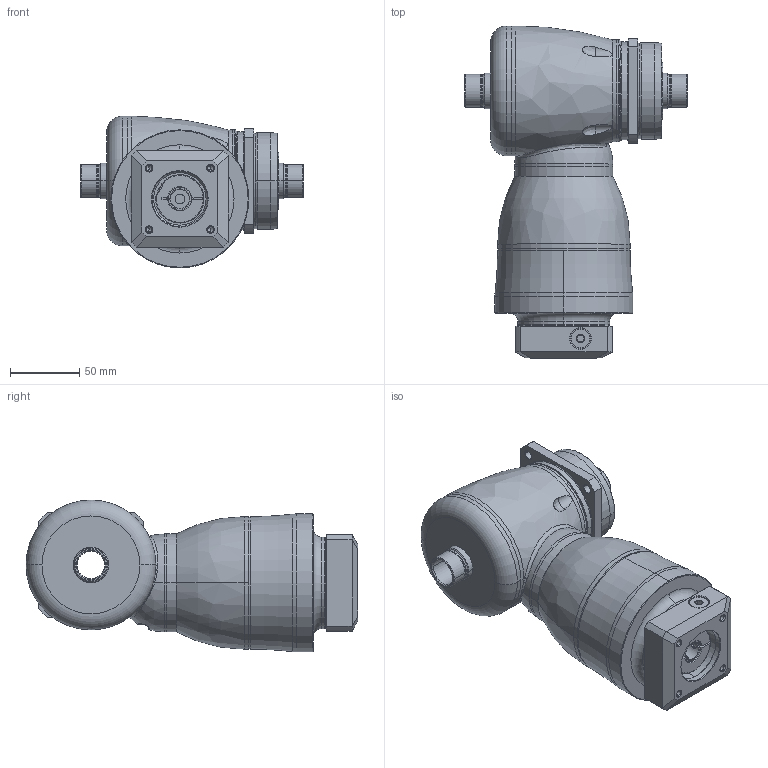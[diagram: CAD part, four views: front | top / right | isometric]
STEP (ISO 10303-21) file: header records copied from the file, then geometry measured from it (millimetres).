
FILE_DESCRIPTION((''),'2;1');
FILE_NAME('KF075_S4_2ST_14-P0409300101_ASM','2016-07-22T',('d01943'),(''),'PRO/ENGINEER BY PARAMETRIC TECHNOLOGY CORPORATION, 2008410','PRO/ENGINEER BY PARAMETRIC TECHNOLOGY CORPORATION, 2008410','');
FILE_SCHEMA(('CONFIG_CONTROL_DESIGN'));
Length unit declared in the file: millimetre
Products named in the file (11): P1008300002; P1804300001; P0914300001; P1315300001; P1007300001; P1317300201; P0409300101; P0503300005; P0912202001; 21711410012; KF075_S4_2ST_14-P0409300101_ASM
Assembly tree (10 placements, depth 2):
  KF075_S4_2ST_14-P0409300101_ASM
    P1008300002
    P1804300001
    P0914300001
    P1315300001
    P1007300001
    P1317300201
    P0409300101
    P0503300005
    P0912202001
    21711410012
Bounding box: 161 x 240.5 x 110 mm (x, y, z)
Volume: 1347174.8 mm3; surface area: 221285.6 mm2
Topology: 11 solids, 11 shells, 508 faces, 1163 edges, 691 vertices
Faces by surface type: cylinder 169, cone 122, plane 90, torus 76, bspline 49, sphere 2
Entity records: 21869 total; most frequent: CARTESIAN_POINT 10372, DIRECTION 2502, ORIENTED_EDGE 2266, EDGE_CURVE 1133, AXIS2_PLACEMENT_3D 1071, VERTEX_POINT 685, CIRCLE 591, EDGE_LOOP 576
